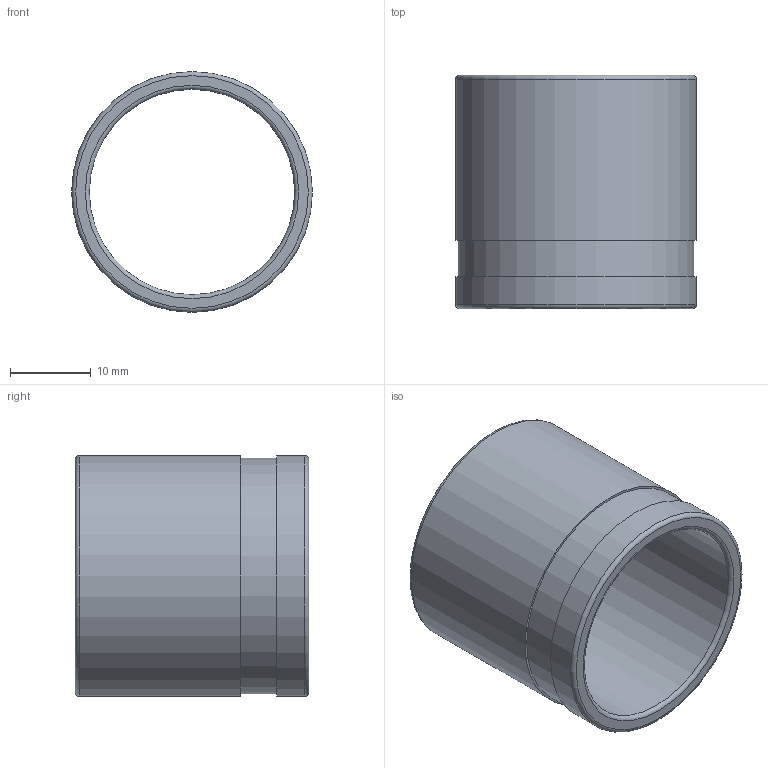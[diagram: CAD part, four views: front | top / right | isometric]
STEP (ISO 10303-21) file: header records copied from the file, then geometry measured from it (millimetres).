
FILE_DESCRIPTION(('STEP AP203'), '1');
FILE_NAME('ÂÐ.713143.003 - VTm.400.G.002535 - Ãèëüçà íàäâèæíàÿ', '2024-01-23T12:53:17', ('Boss'), (''), 'C3D Converter', 'C3D Toolkit', '');
FILE_SCHEMA(('CONFIG_CONTROL_DESIGN'));
Length unit declared in the file: millimetre
Products named in the file (1): ВР.713143.003
Bounding box: 29.9 x 29 x 29.9 mm (x, y, z)
Volume: 5126.8 mm3; surface area: 5370.5 mm2
Topology: 1 solids, 1 shells, 18 faces, 33 edges, 20 vertices
Faces by surface type: torus 6, cylinder 5, plane 5, cone 2
Full cylindrical faces by diameter (mm): 25.5 x2, 29.3 x1, 29.9 x2
Entity records: 431 total; most frequent: DIRECTION 82, CARTESIAN_POINT 61, ORIENTED_EDGE 44, AXIS2_PLACEMENT_3D 41, EDGE_LOOP 34, EDGE_CURVE 22, CIRCLE 22, VERTEX_POINT 20
